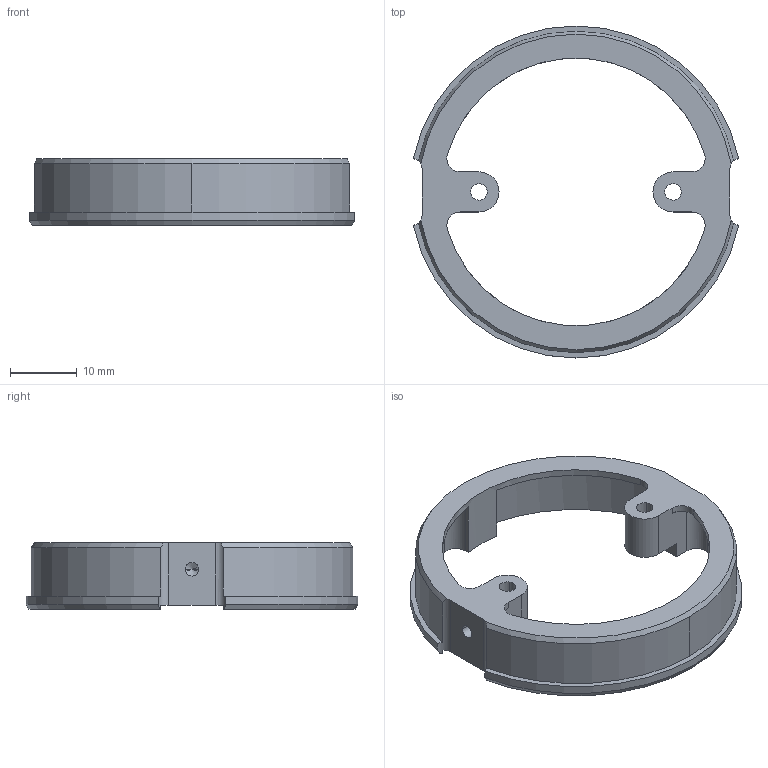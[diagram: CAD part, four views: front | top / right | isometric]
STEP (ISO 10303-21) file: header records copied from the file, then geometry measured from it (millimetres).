
FILE_DESCRIPTION(('CATIA V5 STEP Exchange','CAx-IF Rec.Pracs.--- Model Styling and Organization---1.4--- 2014-01-23','CAx-IF Rec.Pracs.---3D Tessellated Data Validation Properties---0.5---2014-09-14'),'2;1');
FILE_NAME('D:\CTA\NECTARCAM PROD\CTA-01 - Camera Module\CTA-0101 - Focal Plane Module\CTA-010104 - Mechanical Components\CTA-010104-003_3 - CB_Support_Ring.stp','2025-07-24T12:28:26+00:00',('none'),('none'),'CATIA Version 5-6 Release 2018 SP5 HF4','CATIA V5 STEP AP242','none');
FILE_SCHEMA(('AP242_MANAGED_MODEL_BASED_3D_ENGINEERING_MIM_LF {1 0 10303 442 1 1 4}'));
Length unit declared in the file: millimetre
Products named in the file (1): CTA-010104-003
Bounding box: 48.59 x 49.6 x 10 mm (x, y, z)
Volume: 3123.9 mm3; surface area: 4822.5 mm2
Topology: 1 solids, 1 shells, 72 faces, 208 edges, 136 vertices
Faces by surface type: cylinder 40, plane 24, cone 8
Entity records: 2284 total; most frequent: CARTESIAN_POINT 516, ORIENTED_EDGE 408, DIRECTION 278, EDGE_CURVE 204, VERTEX_POINT 136, AXIS2_PLACEMENT_3D 130, VECTOR 98, LINE 98
